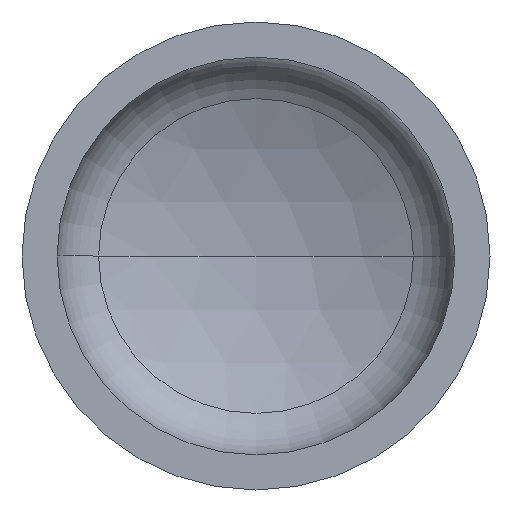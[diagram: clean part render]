
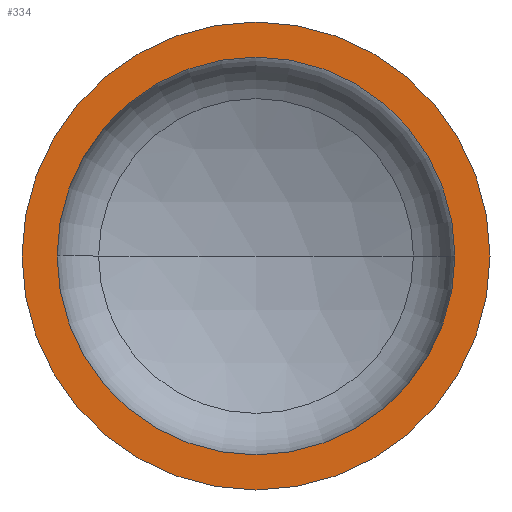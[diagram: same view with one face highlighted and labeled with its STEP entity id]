
A CAD part, front view. The second image highlights one B-rep face of the part: STEP entity #334.
In plain terms, the highlighted planar face has unit normal (0, -1, 0).
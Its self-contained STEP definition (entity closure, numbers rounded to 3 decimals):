
#3 = EDGE_LOOP ( 'NONE', ( #84, #137 ) ) ;
#4 = ORIENTED_EDGE ( 'NONE', *, *, #164, .F. ) ;
#14 = AXIS2_PLACEMENT_3D ( 'NONE', #406, #106, #279 ) ;
#39 = ORIENTED_EDGE ( 'NONE', *, *, #364, .F. ) ;
#42 = EDGE_LOOP ( 'NONE', ( #4, #39 ) ) ;
#58 = VERTEX_POINT ( 'NONE', #244 ) ;
#63 = VERTEX_POINT ( 'NONE', #290 ) ;
#66 = AXIS2_PLACEMENT_3D ( 'NONE', #167, #170, #224 ) ;
#73 = AXIS2_PLACEMENT_3D ( 'NONE', #281, #171, #222 ) ;
#75 = VERTEX_POINT ( 'NONE', #228 ) ;
#84 = ORIENTED_EDGE ( 'NONE', *, *, #384, .T. ) ;
#100 = VERTEX_POINT ( 'NONE', #336 ) ;
#106 = DIRECTION ( 'NONE',  ( 0., -1., 0. ) ) ;
#131 = AXIS2_PLACEMENT_3D ( 'NONE', #199, #301, #299 ) ;
#136 = AXIS2_PLACEMENT_3D ( 'NONE', #296, #293, #291 ) ;
#137 = ORIENTED_EDGE ( 'NONE', *, *, #159, .T. ) ;
#149 = CIRCLE ( 'NONE', #131, 680. ) ;
#159 = EDGE_CURVE ( 'NONE', #75, #63, #398, .T. ) ;
#164 = EDGE_CURVE ( 'NONE', #100, #58, #149, .T. ) ;
#167 = CARTESIAN_POINT ( 'NONE',  ( -800., 0., 0. ) ) ;
#170 = DIRECTION ( 'NONE',  ( 0., 1., 0. ) ) ;
#171 = DIRECTION ( 'NONE',  ( 0., -1., 0. ) ) ;
#181 = FACE_OUTER_BOUND ( 'NONE', #3, .T. ) ;
#199 = CARTESIAN_POINT ( 'NONE',  ( 0., 0., 0. ) ) ;
#222 = DIRECTION ( 'NONE',  ( 1., 0., 0. ) ) ;
#224 = DIRECTION ( 'NONE',  ( -1., 0., 0. ) ) ;
#228 = CARTESIAN_POINT ( 'NONE',  ( -800., 0., 0. ) ) ;
#244 = CARTESIAN_POINT ( 'NONE',  ( -680., 0., 0. ) ) ;
#260 = FACE_BOUND ( 'NONE', #42, .T. ) ;
#279 = DIRECTION ( 'NONE',  ( 1., 0., 0. ) ) ;
#281 = CARTESIAN_POINT ( 'NONE',  ( 0., 0., 0. ) ) ;
#290 = CARTESIAN_POINT ( 'NONE',  ( 800., 0., 0. ) ) ;
#291 = DIRECTION ( 'NONE',  ( 1., 0., 0. ) ) ;
#293 = DIRECTION ( 'NONE',  ( 0., -1., 0. ) ) ;
#296 = CARTESIAN_POINT ( 'NONE',  ( 0., 0., 0. ) ) ;
#299 = DIRECTION ( 'NONE',  ( 1., 0., 0. ) ) ;
#301 = DIRECTION ( 'NONE',  ( 0., -1., 0. ) ) ;
#334 = ADVANCED_FACE ( 'NONE', ( #260, #181 ), #404, .F. ) ;
#336 = CARTESIAN_POINT ( 'NONE',  ( 680., 0., 0. ) ) ;
#356 = CIRCLE ( 'NONE', #73, 680. ) ;
#364 = EDGE_CURVE ( 'NONE', #58, #100, #356, .T. ) ;
#384 = EDGE_CURVE ( 'NONE', #63, #75, #399, .T. ) ;
#398 = CIRCLE ( 'NONE', #136, 800. ) ;
#399 = CIRCLE ( 'NONE', #14, 800. ) ;
#404 = PLANE ( 'NONE',  #66 ) ;
#406 = CARTESIAN_POINT ( 'NONE',  ( 0., 0., 0. ) ) ;
